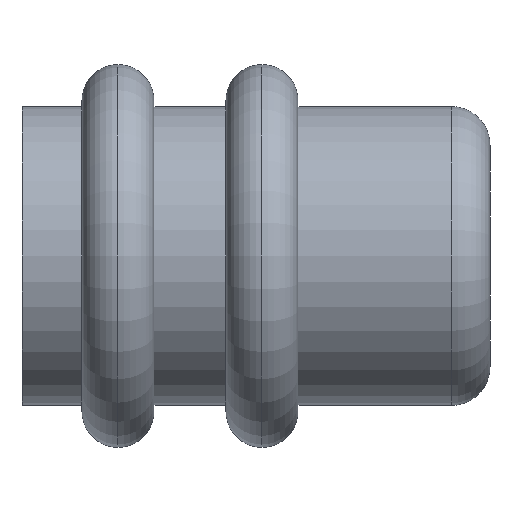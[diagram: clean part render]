
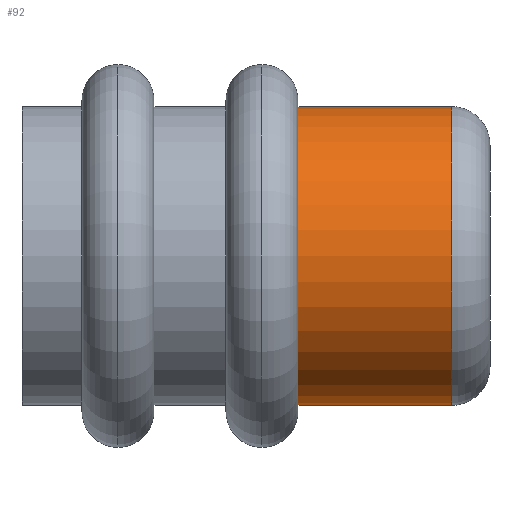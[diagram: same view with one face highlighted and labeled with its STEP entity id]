
A CAD part, front view. The second image highlights one B-rep face of the part: STEP entity #92.
In plain terms, the highlighted cylindrical face has radius 12.45 mm (diameter 24.9 mm), a partial arc.
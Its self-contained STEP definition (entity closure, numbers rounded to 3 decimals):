
#92=ADVANCED_FACE('',(#208),#209,.T.);
#208=FACE_OUTER_BOUND('',#354,.T.);
#209=CYLINDRICAL_SURFACE('',#355,12.45);
#354=EDGE_LOOP('',(#554,#555,#556,#557));
#355=AXIS2_PLACEMENT_3D('',#558,#559,#560);
#554=ORIENTED_EDGE('',*,*,#849,.F.);
#555=ORIENTED_EDGE('',*,*,#850,.T.);
#556=ORIENTED_EDGE('',*,*,#851,.F.);
#557=ORIENTED_EDGE('',*,*,#852,.F.);
#558=CARTESIAN_POINT('',(28.75,0.0,0.));
#559=DIRECTION('',(-1.0,0.0,0.));
#560=DIRECTION('',(0.,0.0,-1.0));
#849=EDGE_CURVE('',#1005,#1006,#1007,.T.);
#850=EDGE_CURVE('',#1005,#1008,#1009,.T.);
#851=EDGE_CURVE('',#1010,#1008,#1011,.T.);
#852=EDGE_CURVE('',#1006,#1010,#1012,.T.);
#1005=VERTEX_POINT('',#1189);
#1006=VERTEX_POINT('',#1190);
#1007=LINE('',#1191,#1192);
#1008=VERTEX_POINT('',#1193);
#1009=CIRCLE('',#1194,12.45);
#1010=VERTEX_POINT('',#1195);
#1011=LINE('',#1196,#1197);
#1012=CIRCLE('',#1198,12.45);
#1189=CARTESIAN_POINT('',(35.8,0.,-12.45));
#1190=CARTESIAN_POINT('',(23.,0.,-12.45));
#1191=CARTESIAN_POINT('',(28.75,0.,-12.45));
#1192=VECTOR('',#1404,1.0);
#1193=CARTESIAN_POINT('',(35.8,0.,12.45));
#1194=AXIS2_PLACEMENT_3D('',#1405,#1406,#1407);
#1195=CARTESIAN_POINT('',(23.,0.,12.45));
#1196=CARTESIAN_POINT('',(28.75,0.,12.45));
#1197=VECTOR('',#1408,1.0);
#1198=AXIS2_PLACEMENT_3D('',#1409,#1410,#1411);
#1404=DIRECTION('',(-1.0,0.0,0.));
#1405=CARTESIAN_POINT('',(35.8,0.0,0.0));
#1406=DIRECTION('',(-1.0,0.0,0.0));
#1407=DIRECTION('',(0.0,0.0,-1.0));
#1408=DIRECTION('',(1.0,-0.0,0.));
#1409=CARTESIAN_POINT('',(23.,0.0,0.));
#1410=DIRECTION('',(-1.0,0.0,0.));
#1411=DIRECTION('',(0.,0.0,-1.0));
